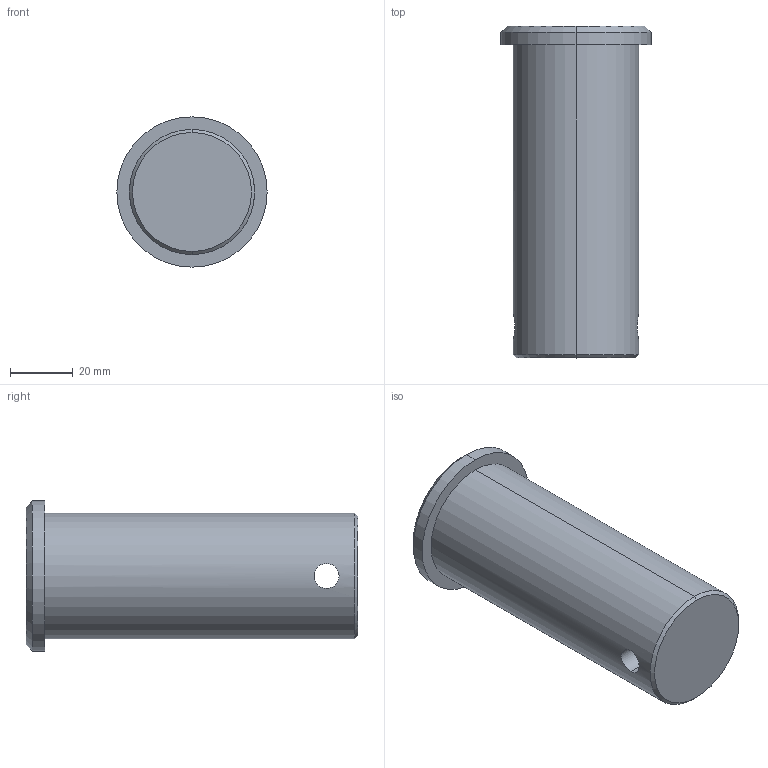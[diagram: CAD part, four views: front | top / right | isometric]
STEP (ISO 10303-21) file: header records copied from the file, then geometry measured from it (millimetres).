
FILE_DESCRIPTION (( 'STEP AP203' ), '1' );
FILE_NAME ('65660.W0140.step', '2023-10-06T10:00:41', ( '' ), ( '' ), 'SwSTEP 2.0', 'SolidWorks 2019', '' );
FILE_SCHEMA (( 'CONFIG_CONTROL_DESIGN' ));
Length unit declared in the file: millimetre
Products named in the file (1): 65660.W0140
Bounding box: 48 x 106 x 48 mm (x, y, z)
Volume: 134165.5 mm3; surface area: 17727.6 mm2
Topology: 1 solids, 1 shells, 13 faces, 26 edges, 16 vertices
Faces by surface type: cylinder 6, cone 4, plane 3
Entity records: 545 total; most frequent: CARTESIAN_POINT 188, DIRECTION 62, ORIENTED_EDGE 52, EDGE_CURVE 26, AXIS2_PLACEMENT_3D 26, EDGE_LOOP 16, VERTEX_POINT 16, ADVANCED_FACE 13
